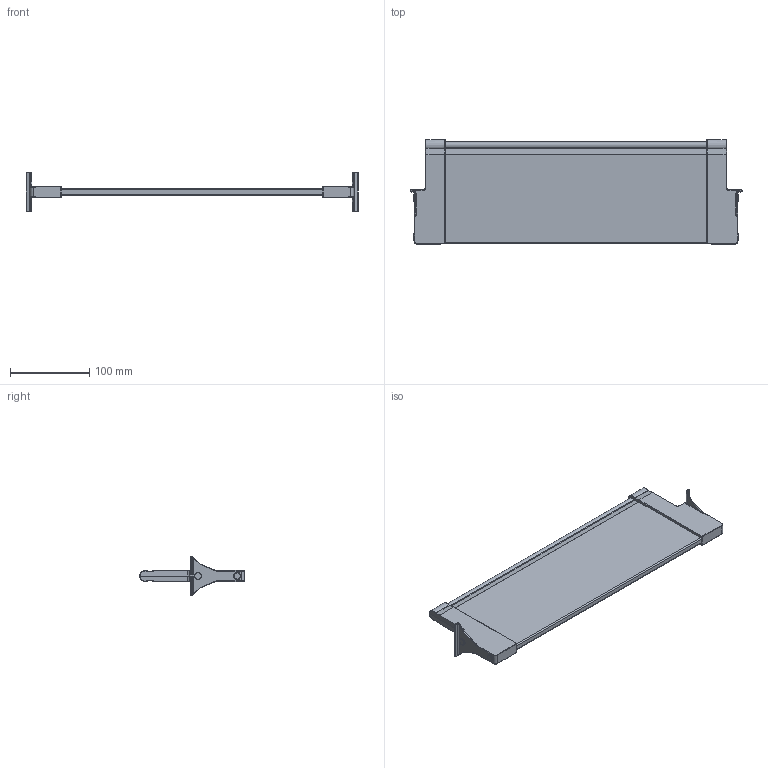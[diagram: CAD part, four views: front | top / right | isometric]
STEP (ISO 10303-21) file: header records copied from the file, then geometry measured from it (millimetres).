
FILE_DESCRIPTION (( 'STEP AP214' ), '1' );
FILE_NAME ('Nova-Pro P622 Querteiler H90Nova PRO Querteiler_H90_KAB 500_16.step', '2009-11-06T06:59:24', ( 'Waldinger Reinhard' ), ( 'Grass GmbH' ), 'SwSTEP 2.0', 'SolidWorks 2009', '' );
FILE_SCHEMA (( 'AUTOMOTIVE_DESIGN' ));
Length unit declared in the file: millimetre
Products named in the file (1): Nova-Pro P622 Querteiler H90Nova PRO Querteiler_H90_KAB 500_16
Bounding box: 418.1 x 132 x 49.97 mm (x, y, z)
Volume: 451134.5 mm3; surface area: 114867.3 mm2
Topology: 1 solids, 1 shells, 248 faces, 578 edges, 334 vertices
Faces by surface type: cylinder 107, bspline 64, plane 51, torus 12, sphere 12, cone 2
Entity records: 11002 total; most frequent: CARTESIAN_POINT 5879, ORIENTED_EDGE 1148, DIRECTION 966, EDGE_CURVE 574, AXIS2_PLACEMENT_3D 369, VERTEX_POINT 334, EDGE_LOOP 254, ADVANCED_FACE 248
